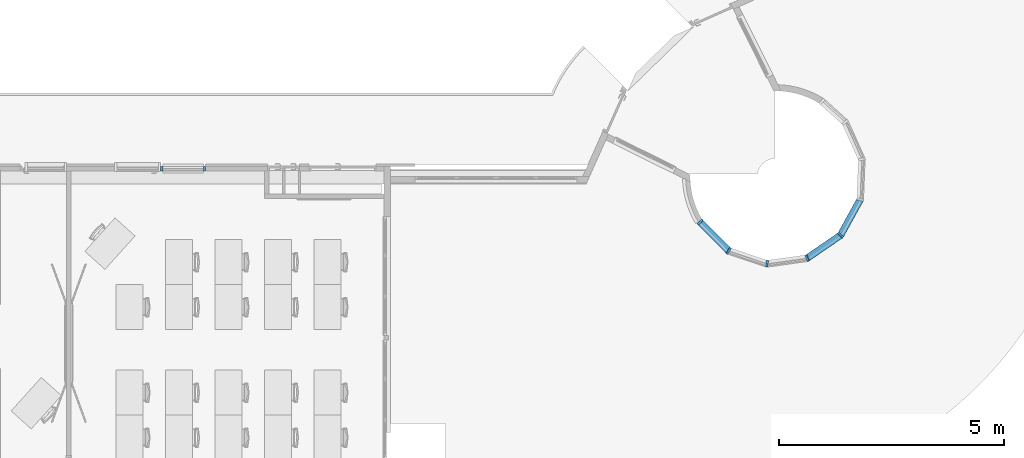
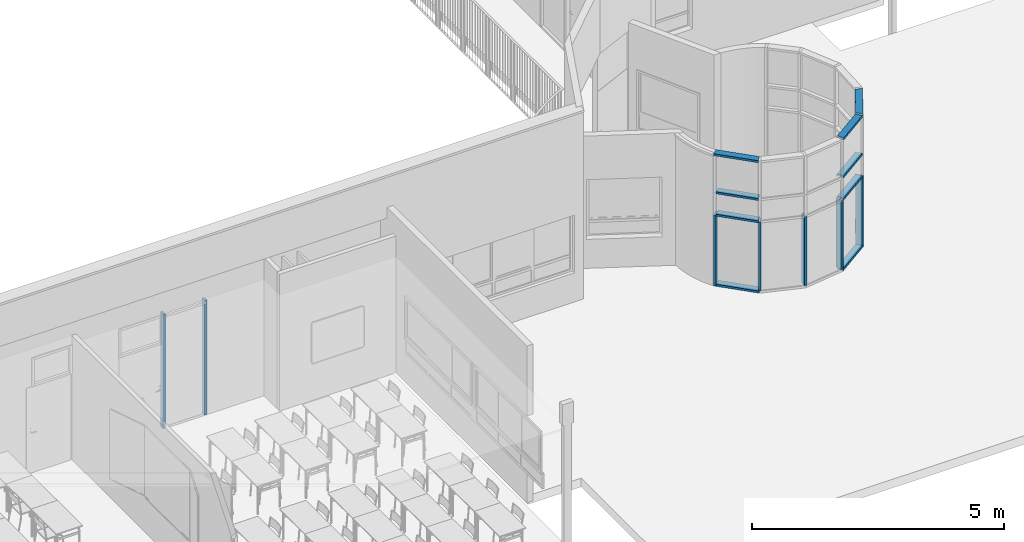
# One storey, part 4 of 44: 17 members, 2 elements without a shape of their own.
"""IFC2X3 building model written with IfcOpenShell, lengths in centimetres."""

from ifc_helpers import new_model, entity, si_unit, converted_unit, derived_unit, direction, frame, frame_2d, origin, origin_2d_with_axis, place, context, subcontext, project, spatial, polyline, rectangle, extrude, clip, halfspace, bounded_halfspace, material, type_object, element, aggregate, save


model = new_model("IFC2X3")

# Units and contexts
model_context = context("Model", 3, precision=0.001, world=origin(), true_north=direction((6.12303176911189e-17, 1.0)))
body_context = subcontext(model_context, "Body", "Model", "MODEL_VIEW")
ifc_project = project(units=[si_unit("LENGTHUNIT", "METRE", prefix="CENTI"), si_unit("AREAUNIT", "SQUARE_METRE"), si_unit("VOLUMEUNIT", "CUBIC_METRE"), converted_unit("PLANEANGLEUNIT", "DEGREE", entity("IfcRatioMeasure", 0.0174532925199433), si_unit("PLANEANGLEUNIT", "RADIAN"), dimensions=[0, 0, 0, 0, 0, 0, 0]), si_unit("MASSUNIT", "GRAM", prefix="KILO"), si_unit("TIMEUNIT", "SECOND"), si_unit("FREQUENCYUNIT", "HERTZ"), si_unit("THERMODYNAMICTEMPERATUREUNIT", "DEGREE_CELSIUS"), derived_unit("THERMALTRANSMITTANCEUNIT", [(si_unit("MASSUNIT", "GRAM", prefix="KILO"), 1), (si_unit("THERMODYNAMICTEMPERATUREUNIT", "KELVIN"), -1), (si_unit("TIMEUNIT", "SECOND"), -3)]), derived_unit("VOLUMETRICFLOWRATEUNIT", [(si_unit("LENGTHUNIT", "METRE"), 3), (si_unit("TIMEUNIT", "SECOND"), -1)]), si_unit("ELECTRICCURRENTUNIT", "AMPERE"), si_unit("ELECTRICVOLTAGEUNIT", "VOLT"), si_unit("POWERUNIT", "WATT"), si_unit("FORCEUNIT", "NEWTON", prefix="KILO"), si_unit("ILLUMINANCEUNIT", "LUX"), si_unit("LUMINOUSFLUXUNIT", "LUMEN"), si_unit("LUMINOUSINTENSITYUNIT", "CANDELA"), derived_unit("USERDEFINED", [(si_unit("MASSUNIT", "GRAM", prefix="KILO"), -1), (si_unit("LENGTHUNIT", "METRE"), -2), (si_unit("TIMEUNIT", "SECOND"), 3), (si_unit("LUMINOUSFLUXUNIT", "LUMEN"), 1)]), derived_unit("LINEARVELOCITYUNIT", [(si_unit("LENGTHUNIT", "METRE"), 1), (si_unit("TIMEUNIT", "SECOND"), -1)]), si_unit("PRESSUREUNIT", "PASCAL"), derived_unit("USERDEFINED", [(si_unit("LENGTHUNIT", "METRE"), -2), (si_unit("MASSUNIT", "GRAM", prefix="KILO"), 1), (si_unit("TIMEUNIT", "SECOND"), -2)])], contexts=[model_context])

# Site, building, storey
site_placement = place(None, frame((8.62739174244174, -249.285249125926, 0.0)))
site = spatial("IfcSite", under=ifc_project, at=site_placement, Name="Default", CompositionType="ELEMENT")
building_placement = place(site_placement, origin())
building = spatial("IfcBuilding", under=site, at=building_placement, CompositionType="ELEMENT")
storey_placement = place(building_placement, frame((0.0, 0.0, 343.0)))
storey = spatial("IfcBuildingStorey", under=building, at=storey_placement, Name="R+1", CompositionType="ELEMENT", Elevation=343.0)

# Curtain wall, members
curtain_wall_type_1 = type_object("IfcCurtainWallType", Name="Mur-rideau:1 m x 1 m - Meneaux", PredefinedType="NOTDEFINED")
curtain_wall_1_placement = place(storey_placement, frame((0.0, 0.0, -343.0)))
curtain_wall_1 = element("IfcCurtainWall", 1, at=curtain_wall_1_placement, inside=storey, type_object=curtain_wall_type_1, Name="Mur-rideau:1 m x 1 m - Meneaux", ObjectType="Mur-rideau:1 m x 1 m - Meneaux")
ifc_material = material(Name="Plastique, blanc opaque")
member_1_placement = place(curtain_wall_1_placement, frame((0.0, 0.0, 343.0)))
member_1 = element("IfcMember", 2, at=member_1_placement, material=ifc_material, Name="Mur-rideau:1 m x 1 m - Meneaux:661", ObjectType="Mur-rideau:1 m x 1 m - Meneaux:661", context=body_context, shape_type="Clipping", body=[
    clip(extrude(rectangle(XDim=5.0, YDim=15.0000000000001, at=frame_2d((-2.70894418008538e-14, -3.81916720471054e-14), x_axis=(1.0, 0.0))), frame((2879.0484470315, 649.451623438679, 2.49999999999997), z_axis=(0.701265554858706, -0.712900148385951, 0.0), x_axis=(0.0, 0.0, -1.0)), (0.0, 0.0, 1.0), 89.295179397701), halfspace(frame((2940.40918308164, 587.072860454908, -30.48), z_axis=(0.847951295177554, -0.53007414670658, 0.0), x_axis=(0.53007414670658, 0.847951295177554, 0.0)), False)),
])
member_2_placement = place(curtain_wall_1_placement, frame((0.0, 0.0, 343.0)))
member_2 = element("IfcMember", 3, at=member_2_placement, material=ifc_material, Name="Mur-rideau:1 m x 1 m - Meneaux:661", ObjectType="Mur-rideau:1 m x 1 m - Meneaux:661", context=body_context, shape_type="Clipping", body=[
    clip(clip(clip(clip(extrude(rectangle(XDim=4.99999999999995, YDim=15.0, at=frame_2d((0.0, 3.46389583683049e-13), x_axis=(1.0, 0.0))), frame((3188.33340515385, 621.540235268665, 317.5), z_axis=(-0.823704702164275, -0.567019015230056, 0.0), x_axis=(0.0, 0.0, -1.0)), (0.0, 0.0, 1.0), 88.4011679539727), bounded_halfspace(frame((3192.87050338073, 615.104662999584, 226.0), z_axis=(0.671518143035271, 0.740988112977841, 0.0), x_axis=(0.740988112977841, -0.671518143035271, 0.0)), False, frame((3188.33340515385, 621.540235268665, 317.5), z_axis=(-0.823704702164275, -0.567019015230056, 0.0), x_axis=(0.0, 0.0, -1.0)), polyline([(-2.49999999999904, 7.50000000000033), (2.5000000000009, 7.49999999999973), (2.49999999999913, -6.72567292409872), (-2.50000000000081, -6.72567292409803), (-2.49999999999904, 7.50000000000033)]))), bounded_halfspace(frame((3181.75568168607, 625.177435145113, 226.0), z_axis=(0.740988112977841, -0.671518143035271, 0.0), x_axis=(0.671518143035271, 0.740988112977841, 0.0)), False, frame((3188.33340515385, 621.540235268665, 317.5), z_axis=(-0.823704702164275, -0.567019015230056, 0.0), x_axis=(0.0, 0.0, -1.0)), polyline([(2.49999999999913, -6.72567292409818), (2.4999999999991, -7.50000000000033), (-2.50000000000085, -7.49999999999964), (-2.50000000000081, -6.72567292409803), (2.49999999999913, -6.72567292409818)]))), bounded_halfspace(frame((3114.46750202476, 578.857829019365, 226.0), z_axis=(-0.931884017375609, -0.362756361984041, 0.0), x_axis=(0.362756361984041, -0.931884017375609, 0.0)), False, frame((3188.33340515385, 621.540235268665, 317.5), z_axis=(-0.823704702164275, -0.567019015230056, 0.0), x_axis=(0.0, 0.0, -1.0)), polyline([(-2.50000000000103, 7.50000000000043), (-2.50000000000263, -6.72567292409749), (2.49999999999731, -6.72567292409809), (2.49999999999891, 7.50000000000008), (-2.50000000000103, 7.50000000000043)]))), bounded_halfspace(frame((3109.80808193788, 577.044047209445, 226.0), z_axis=(0.362756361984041, -0.931884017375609, 0.0), x_axis=(0.931884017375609, 0.362756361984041, 0.0)), False, frame((3188.33340515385, 621.540235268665, 317.5), z_axis=(-0.823704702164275, -0.567019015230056, 0.0), x_axis=(0.0, 0.0, -1.0)), polyline([(-2.50000000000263, -6.72567292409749), (-2.50000000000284, -7.49999999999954), (2.49999999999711, -7.49999999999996), (2.49999999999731, -6.72567292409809), (-2.50000000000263, -6.72567292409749)]))),
])
member_3_placement = place(curtain_wall_1_placement, frame((0.0, 0.0, 343.0)))
member_3 = element("IfcMember", 4, at=member_3_placement, material=ifc_material, Name="Mur-rideau:1 m x 1 m - Meneaux:661", ObjectType="Mur-rideau:1 m x 1 m - Meneaux:661", context=body_context, shape_type="Clipping", body=[
    clip(clip(clip(clip(extrude(rectangle(XDim=4.99999999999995, YDim=14.9999999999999, at=frame_2d((0.0, -2.62012633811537e-14), x_axis=(1.0, 0.0))), frame((3232.11636143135, 700.076961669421, 317.5), z_axis=(-0.483455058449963, -0.875369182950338, 0.0), x_axis=(0.0, 0.0, -1.0)), (0.0, 0.0, 1.0), 88.4011679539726), bounded_halfspace(frame((3239.05130675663, 696.347567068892, 226.0), z_axis=(0.269562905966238, 0.962982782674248, 0.0), x_axis=(0.962982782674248, -0.269562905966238, 0.0)), False, frame((3232.11636143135, 700.076961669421, 317.5), z_axis=(-0.483455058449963, -0.875369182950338, 0.0), x_axis=(0.0, 0.0, -1.0)), polyline([(-2.49999999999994, 7.49999999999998), (2.5, 7.49999999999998), (2.5, -6.72567292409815), (-2.49999999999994, -6.72567292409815), (-2.49999999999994, 7.49999999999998)]))), bounded_halfspace(frame((3224.60656501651, 700.391010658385, 226.0), z_axis=(0.962982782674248, -0.269562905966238, 0.0), x_axis=(0.269562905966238, 0.962982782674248, 0.0)), False, frame((3232.11636143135, 700.076961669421, 317.5), z_axis=(-0.483455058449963, -0.875369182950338, 0.0), x_axis=(0.0, 0.0, -1.0)), polyline([(2.5, -6.72567292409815), (2.5, -7.49999999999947), (-2.49999999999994, -7.49999999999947), (-2.49999999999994, -6.72567292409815), (2.5, -6.72567292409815)]))), bounded_halfspace(frame((3185.11327240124, 628.882375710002, 226.0), z_axis=(-0.671518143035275, -0.740988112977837, 0.0), x_axis=(0.740988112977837, -0.671518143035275, 0.0)), False, frame((3232.11636143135, 700.076961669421, 317.5), z_axis=(-0.483455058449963, -0.875369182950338, 0.0), x_axis=(0.0, 0.0, -1.0)), polyline([(-2.49999999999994, 7.50000000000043), (-2.49999999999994, -6.72567292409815), (2.5, -6.72567292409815), (2.5, 7.50000000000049), (-2.49999999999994, 7.50000000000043)]))), bounded_halfspace(frame((3181.75568168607, 625.177435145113, 226.0), z_axis=(0.740988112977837, -0.671518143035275, 0.0), x_axis=(0.671518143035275, 0.740988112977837, 0.0)), False, frame((3232.11636143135, 700.076961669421, 317.5), z_axis=(-0.483455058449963, -0.875369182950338, 0.0), x_axis=(0.0, 0.0, -1.0)), polyline([(-2.49999999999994, -6.72567292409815), (-2.49999999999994, -7.49999999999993), (2.5, -7.49999999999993), (2.5, -6.72567292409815), (-2.49999999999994, -6.72567292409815)]))),
])
member_4_placement = place(curtain_wall_1_placement, frame((0.0, 0.0, 343.0)))
member_4 = element("IfcMember", 5, at=member_4_placement, material=ifc_material, Name="Mur-rideau:1 m x 1 m - Meneaux:661", ObjectType="Mur-rideau:1 m x 1 m - Meneaux:661", context=body_context, shape_type="Clipping", body=[
    clip(clip(extrude(rectangle(XDim=5.0, YDim=15.0000000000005, at=frame_2d((-2.70894418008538e-14, 1.33670852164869e-13), x_axis=(1.0, 0.0))), frame((3113.40116683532, 569.958638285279, 2.49999999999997), z_axis=(0.823704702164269, 0.567019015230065, 0.0), x_axis=(0.0, 0.0, -1.0)), (0.0, 0.0, 1.0), 93.5383987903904), halfspace(frame((3114.8584646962, 570.961807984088, -30.48), z_axis=(-0.93188401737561, -0.362756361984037, 0.0), x_axis=(0.362756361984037, -0.93188401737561, 0.0)), False)), halfspace(frame((3188.99188789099, 621.993519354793, -30.48), z_axis=(0.671518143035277, 0.740988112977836, 0.0), x_axis=(0.740988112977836, -0.671518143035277, 0.0)), False)),
])
member_5_placement = place(curtain_wall_1_placement, frame((0.0, 0.0, 343.0)))
member_5 = element("IfcMember", 6, at=member_5_placement, material=ifc_material, Name="Mur-rideau:1 m x 1 m - Meneaux:661", ObjectType="Mur-rideau:1 m x 1 m - Meneaux:661", context=body_context, shape_type="Clipping", body=[
    clip(clip(extrude(rectangle(XDim=5.0, YDim=14.9999999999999, at=frame_2d((-2.70894418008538e-14, 0.0), x_axis=(1.0, 0.0))), frame((3188.13655949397, 620.444816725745, 2.49999999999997), z_axis=(0.483455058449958, 0.875369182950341, 0.0), x_axis=(0.0, 0.0, -1.0)), (0.0, 0.0, 1.0), 93.5383987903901), halfspace(frame((3188.99188789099, 621.993519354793, -30.48), z_axis=(-0.671518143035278, -0.740988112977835, 0.0), x_axis=(0.740988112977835, -0.671518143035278, 0.0)), False)), halfspace(frame((3232.50284315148, 700.776745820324, -30.48), z_axis=(0.269562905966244, 0.962982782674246, 0.0), x_axis=(0.962982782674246, -0.269562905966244, 0.0)), False)),
])
member_6_placement = place(curtain_wall_1_placement, frame((0.0, 0.0, 343.0)))
member_6 = element("IfcMember", 7, at=member_6_placement, material=ifc_material, Name="Mur-rideau:1 m x 1 m - Meneaux:661", ObjectType="Mur-rideau:1 m x 1 m - Meneaux:661", context=body_context, shape_type="SweptSolid", body=[
    extrude(rectangle(XDim=4.99999999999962, YDim=15.0, at=origin_2d_with_axis()), frame((3025.7335796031, 558.441629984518, 5.0), z_axis=(0.0, 0.0, 1.0), x_axis=(0.995762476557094, -0.0919624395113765, 0.0)), (0.0, 0.0, 1.0), 167.0),
])
member_7_placement = place(curtain_wall_1_placement, frame((0.0, 0.0, 343.0)))
member_7 = element("IfcMember", 8, at=member_7_placement, material=ifc_material, Name="Mur-rideau:1 m x 1 m - Meneaux:661", ObjectType="Mur-rideau:1 m x 1 m - Meneaux:661", context=body_context, shape_type="SweptSolid", body=[
    extrude(rectangle(XDim=5.00000000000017, YDim=15.0, at=origin_2d_with_axis()), frame((3114.8584646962, 570.961807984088, 5.0), z_axis=(0.0, 0.0, 1.0), x_axis=(0.931884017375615, 0.362756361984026, 0.0)), (0.0, 0.0, 1.0), 167.0),
])
member_8_placement = place(curtain_wall_1_placement, frame((0.0, 0.0, 343.0)))
member_8 = element("IfcMember", 9, at=member_8_placement, material=ifc_material, Name="Mur-rideau:1 m x 1 m - Meneaux:661", ObjectType="Mur-rideau:1 m x 1 m - Meneaux:661", context=body_context, shape_type="SweptSolid", body=[
    extrude(rectangle(XDim=4.99999999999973, YDim=14.9999999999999, at=origin_2d_with_axis()), frame((3188.99188789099, 621.993519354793, 5.0), z_axis=(0.0, 0.0, 1.0), x_axis=(0.671518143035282, 0.740988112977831, 0.0)), (0.0, 0.0, 1.0), 167.0),
])
member_9_placement = place(curtain_wall_1_placement, frame((0.0, 0.0, 343.0)))
member_9 = element("IfcMember", 10, at=member_9_placement, material=ifc_material, Name="Mur-rideau:1 m x 1 m - Meneaux:661", ObjectType="Mur-rideau:1 m x 1 m - Meneaux:661", context=body_context, shape_type="Clipping", body=[
    clip(clip(extrude(rectangle(XDim=4.99999999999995, YDim=15.0000000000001, at=frame_2d((0.0, 3.81916720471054e-14), x_axis=(1.0, 0.0))), frame((2939.88221695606, 587.608569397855, 317.5), z_axis=(-0.701265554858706, 0.712900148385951, 0.0), x_axis=(0.0, 0.0, -1.0)), (0.0, 0.0, 1.0), 91.748549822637), bounded_halfspace(frame((2934.33028870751, 582.018452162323, 226.0), z_axis=(0.849684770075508, -0.527290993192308, 0.0), x_axis=(0.527290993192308, 0.849684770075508, 0.0)), False, frame((2939.88221695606, 587.608569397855, 317.5), z_axis=(-0.701265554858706, 0.712900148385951, 0.0), x_axis=(0.0, 0.0, -1.0)), polyline([(-2.49999999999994, 7.50000000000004), (2.5, 7.50000000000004), (2.5, -6.69828019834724), (-2.49999999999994, -6.6982801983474), (-2.49999999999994, 7.50000000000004)]))), bounded_halfspace(frame((2942.23965360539, 594.763723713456, 226.0), z_axis=(-0.527290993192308, -0.849684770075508, 0.0), x_axis=(0.849684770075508, -0.527290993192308, 0.0)), False, frame((2939.88221695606, 587.608569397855, 317.5), z_axis=(-0.701265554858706, 0.712900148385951, 0.0), x_axis=(0.0, 0.0, -1.0)), polyline([(2.5, -6.6982801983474), (2.5, -7.50000000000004), (-2.49999999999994, -7.50000000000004), (-2.49999999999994, -6.69828019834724), (2.5, -6.6982801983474)]))),
])
member_10_placement = place(curtain_wall_1_placement, frame((0.0, 0.0, 343.0)))
member_10 = element("IfcMember", 11, at=member_10_placement, material=ifc_material, Name="Mur-rideau:1 m x 1 m - Meneaux:661", ObjectType="Mur-rideau:1 m x 1 m - Meneaux:661", context=body_context, shape_type="SweptSolid", body=[
    extrude(rectangle(XDim=4.99999999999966, YDim=15.0, at=frame_2d((-3.67927910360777e-13, -2.28261853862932e-13), x_axis=(1.0, 0.0))), frame((2940.40918308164, 587.072860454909, 5.0), z_axis=(0.0, 0.0, 1.0), x_axis=(0.849684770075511, -0.527290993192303, 0.0)), (0.0, 0.0, 1.0), 167.0),
])
member_11_placement = place(curtain_wall_1_placement, frame((0.0, 0.0, 343.0)))
member_11 = element("IfcMember", 12, at=member_11_placement, material=ifc_material, Name="Mur-rideau:1 m x 1 m - Meneaux:661", ObjectType="Mur-rideau:1 m x 1 m - Meneaux:661", context=body_context, shape_type="Clipping", body=[
    clip(clip(clip(clip(extrude(rectangle(XDim=4.99999999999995, YDim=15.0000000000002, at=origin_2d_with_axis()), frame((2939.88221695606, 587.608569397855, 226.0), z_axis=(-0.70126555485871, 0.712900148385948, 0.0), x_axis=(0.0, 0.0, -1.0)), (0.0, 0.0, 1.0), 86.748549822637), bounded_halfspace(frame((2934.33028870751, 582.018452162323, 226.0), z_axis=(0.849684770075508, -0.527290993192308, 0.0), x_axis=(0.527290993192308, 0.849684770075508, 0.0)), False, frame((2939.88221695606, 587.608569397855, 226.0), z_axis=(-0.70126555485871, 0.712900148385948, 0.0), x_axis=(0.0, 0.0, -1.0)), polyline([(-2.49999999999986, 7.50000000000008), (0.0, 7.50000000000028), (0.0, -6.69828019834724), (-2.50000000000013, -6.69828019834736), (-2.49999999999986, 7.50000000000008)]))), bounded_halfspace(frame((2934.33028870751, 582.018452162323, 172.0), z_axis=(0.849684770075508, -0.527290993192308, 0.0), x_axis=(0.527290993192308, 0.849684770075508, 0.0)), False, frame((2939.88221695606, 587.608569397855, 226.0), z_axis=(-0.70126555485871, 0.712900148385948, 0.0), x_axis=(0.0, 0.0, -1.0)), polyline([(0.0, 7.50000000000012), (2.50000000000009, 7.50000000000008), (2.49999999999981, -6.69828019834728), (0.0, -6.69828019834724), (0.0, 7.50000000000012)]))), bounded_halfspace(frame((2942.23965360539, 594.763723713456, 226.0), z_axis=(-0.527290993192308, -0.849684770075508, 0.0), x_axis=(0.849684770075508, -0.527290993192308, 0.0)), False, frame((2939.88221695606, 587.608569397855, 226.0), z_axis=(-0.70126555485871, 0.712900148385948, 0.0), x_axis=(0.0, 0.0, -1.0)), polyline([(0.0, -7.50000000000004), (-2.50000000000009, -7.5), (-2.50000000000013, -6.69828019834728), (0.0, -6.69828019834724), (0.0, -7.50000000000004)]))), bounded_halfspace(frame((2942.23965360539, 594.763723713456, 172.0), z_axis=(-0.527290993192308, -0.849684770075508, 0.0), x_axis=(0.849684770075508, -0.527290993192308, 0.0)), False, frame((2939.88221695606, 587.608569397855, 226.0), z_axis=(-0.70126555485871, 0.712900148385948, 0.0), x_axis=(0.0, 0.0, -1.0)), polyline([(2.49999999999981, -6.69828019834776), (2.49999999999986, -7.50000000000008), (0.0, -7.49999999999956), (0.0, -6.69828019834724), (2.49999999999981, -6.69828019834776)]))),
])
member_12_placement = place(curtain_wall_1_placement, frame((0.0, 0.0, 343.0)))
member_12 = element("IfcMember", 13, at=member_12_placement, material=ifc_material, Name="Mur-rideau:1 m x 1 m - Meneaux:661", ObjectType="Mur-rideau:1 m x 1 m - Meneaux:661", context=body_context, shape_type="Clipping", body=[
    clip(clip(clip(clip(clip(clip(clip(clip(extrude(rectangle(XDim=4.99999999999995, YDim=15.0, at=frame_2d((0.0, -4.48530101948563e-14), x_axis=(1.0, 0.0))), frame((3188.33340515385, 621.540235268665, 226.0), z_axis=(-0.823704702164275, -0.567019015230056, 0.0), x_axis=(0.0, 0.0, -1.0)), (0.0, 0.0, 1.0), 88.4011679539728), bounded_halfspace(frame((3192.87050338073, 615.104662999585, 226.0), z_axis=(0.671518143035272, 0.74098811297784, 0.0), x_axis=(0.74098811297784, -0.671518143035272, 0.0)), False, frame((3188.33340515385, 621.540235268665, 226.0), z_axis=(-0.823704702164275, -0.567019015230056, 0.0), x_axis=(0.0, 0.0, -1.0)), polyline([(-2.4999999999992, 7.50000000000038), (0.0, 7.49999999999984), (0.0, -6.72567292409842), (-2.50000000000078, -6.72567292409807), (-2.4999999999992, 7.50000000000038)]))), bounded_halfspace(frame((3192.87050338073, 615.104662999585, 172.0), z_axis=(0.671518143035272, 0.74098811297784, 0.0), x_axis=(0.74098811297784, -0.671518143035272, 0.0)), False, frame((3188.33340515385, 621.540235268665, 226.0), z_axis=(-0.823704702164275, -0.567019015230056, 0.0), x_axis=(0.0, 0.0, -1.0)), polyline([(0.0, 7.50000000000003), (2.50000000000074, 7.49999999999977), (2.49999999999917, -6.72567292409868), (0.0, -6.72567292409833), (0.0, 7.50000000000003)]))), bounded_halfspace(frame((3181.75568168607, 625.177435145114, 226.0), z_axis=(0.74098811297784, -0.671518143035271, 0.0), x_axis=(0.671518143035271, 0.74098811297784, 0.0)), False, frame((3188.33340515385, 621.540235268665, 226.0), z_axis=(-0.823704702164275, -0.567019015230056, 0.0), x_axis=(0.0, 0.0, -1.0)), polyline([(0.0, -7.50000000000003), (-2.50000000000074, -7.50000000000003), (-2.50000000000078, -6.72567292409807), (0.0, -6.72567292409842), (0.0, -7.50000000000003)]))), bounded_halfspace(frame((3181.75568168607, 625.177435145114, 172.0), z_axis=(0.74098811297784, -0.671518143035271, 0.0), x_axis=(0.671518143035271, 0.74098811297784, 0.0)), False, frame((3188.33340515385, 621.540235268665, 226.0), z_axis=(-0.823704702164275, -0.567019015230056, 0.0), x_axis=(0.0, 0.0, -1.0)), polyline([(2.49999999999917, -6.72567292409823), (2.4999999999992, -7.50000000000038), (0.0, -7.50000000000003), (0.0, -6.72567292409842), (2.49999999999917, -6.72567292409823)]))), bounded_halfspace(frame((3114.46750202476, 578.857829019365, 226.0), z_axis=(-0.931884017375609, -0.36275636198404, 0.0), x_axis=(0.36275636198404, -0.931884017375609, 0.0)), False, frame((3188.33340515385, 621.540235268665, 226.0), z_axis=(-0.823704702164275, -0.567019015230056, 0.0), x_axis=(0.0, 0.0, -1.0)), polyline([(-2.50000000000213, 7.50000000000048), (-2.50000000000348, -6.72567292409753), (0.0, -6.72567292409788), (0.0, 7.50000000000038), (-2.50000000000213, 7.50000000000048)]))), bounded_halfspace(frame((3109.80808193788, 577.044047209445, 226.0), z_axis=(0.36275636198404, -0.931884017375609, 0.0), x_axis=(0.931884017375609, 0.36275636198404, 0.0)), False, frame((3188.33340515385, 621.540235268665, 226.0), z_axis=(-0.823704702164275, -0.567019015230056, 0.0), x_axis=(0.0, 0.0, -1.0)), polyline([(-2.50000000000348, -6.72567292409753), (-2.50000000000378, -7.49999999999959), (0.0, -7.49999999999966), (0.0, -6.72567292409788), (-2.50000000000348, -6.72567292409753)]))), bounded_halfspace(frame((3114.46750202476, 578.857829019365, 172.0), z_axis=(-0.931884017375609, -0.36275636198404, 0.0), x_axis=(0.36275636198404, -0.931884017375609, 0.0)), False, frame((3188.33340515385, 621.540235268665, 226.0), z_axis=(-0.823704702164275, -0.567019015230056, 0.0), x_axis=(0.0, 0.0, -1.0)), polyline([(2.49999999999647, -6.72567292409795), (2.49999999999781, 7.50000000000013), (0.0, 7.50000000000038), (0.0, -6.72567292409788), (2.49999999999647, -6.72567292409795)]))), bounded_halfspace(frame((3109.80808193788, 577.044047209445, 172.0), z_axis=(0.36275636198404, -0.931884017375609, 0.0), x_axis=(0.931884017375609, 0.36275636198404, 0.0)), False, frame((3188.33340515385, 621.540235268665, 226.0), z_axis=(-0.823704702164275, -0.567019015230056, 0.0), x_axis=(0.0, 0.0, -1.0)), polyline([(0.0, -7.49999999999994), (2.49999999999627, -7.49999999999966), (2.49999999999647, -6.72567292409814), (0.0, -6.7256729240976), (0.0, -7.49999999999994)]))),
])
member_13_placement = place(curtain_wall_1_placement, frame((0.0, 0.0, 343.0)))
member_13 = element("IfcMember", 14, at=member_13_placement, material=ifc_material, Name="Mur-rideau:1 m x 1 m - Meneaux:661", ObjectType="Mur-rideau:1 m x 1 m - Meneaux:661", context=body_context, shape_type="SweptSolid", body=[
    extrude(rectangle(XDim=15.0, YDim=4.99999999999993, at=frame_2d((-1.92290627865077e-13, -1.13020703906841e-13), x_axis=(1.0, 0.0))), frame((2877.29528314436, 651.233873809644, 172.0), z_axis=(0.0, 0.0, -1.0), x_axis=(0.712900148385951, 0.701265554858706, 0.0)), (0.0, 0.0, 1.0), 172.0),
])
member_14_placement = place(curtain_wall_1_placement, frame((0.0, 0.0, 343.0)))
member_14 = element("IfcMember", 15, at=member_14_placement, material=ifc_material, Name="Mur-rideau:1 m x 1 m - Meneaux:661", ObjectType="Mur-rideau:1 m x 1 m - Meneaux:661", context=body_context, shape_type="Clipping", body=[
    clip(clip(clip(clip(extrude(rectangle(XDim=4.99999999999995, YDim=15.0000000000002, at=origin_2d_with_axis()), frame((2939.88221695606, 587.608569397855, 172.0), z_axis=(-0.70126555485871, 0.712900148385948, 0.0), x_axis=(0.0, 0.0, -1.0)), (0.0, 0.0, 1.0), 86.748549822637), bounded_halfspace(frame((2934.33028870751, 582.018452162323, 172.0), z_axis=(0.849684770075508, -0.527290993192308, 0.0), x_axis=(0.527290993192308, 0.849684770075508, 0.0)), False, frame((2939.88221695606, 587.608569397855, 172.0), z_axis=(-0.70126555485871, 0.712900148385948, 0.0), x_axis=(0.0, 0.0, -1.0)), polyline([(-2.49999999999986, 7.50000000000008), (0.0, 7.50000000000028), (0.0, -6.69828019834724), (-2.50000000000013, -6.69828019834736), (-2.49999999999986, 7.50000000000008)]))), bounded_halfspace(frame((2934.33028870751, 582.018452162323, 5.0), z_axis=(0.849684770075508, -0.527290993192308, 0.0), x_axis=(0.527290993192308, 0.849684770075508, 0.0)), False, frame((2939.88221695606, 587.608569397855, 172.0), z_axis=(-0.70126555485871, 0.712900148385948, 0.0), x_axis=(0.0, 0.0, -1.0)), polyline([(0.0, 7.50000000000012), (2.50000000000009, 7.50000000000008), (2.49999999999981, -6.69828019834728), (0.0, -6.69828019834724), (0.0, 7.50000000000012)]))), bounded_halfspace(frame((2942.23965360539, 594.763723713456, 172.0), z_axis=(-0.527290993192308, -0.849684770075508, 0.0), x_axis=(0.849684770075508, -0.527290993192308, 0.0)), False, frame((2939.88221695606, 587.608569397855, 172.0), z_axis=(-0.70126555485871, 0.712900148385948, 0.0), x_axis=(0.0, 0.0, -1.0)), polyline([(0.0, -7.50000000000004), (-2.50000000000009, -7.5), (-2.50000000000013, -6.69828019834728), (0.0, -6.69828019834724), (0.0, -7.50000000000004)]))), bounded_halfspace(frame((2942.23965360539, 594.763723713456, 5.0), z_axis=(-0.527290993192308, -0.849684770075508, 0.0), x_axis=(0.849684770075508, -0.527290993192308, 0.0)), False, frame((2939.88221695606, 587.608569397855, 172.0), z_axis=(-0.70126555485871, 0.712900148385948, 0.0), x_axis=(0.0, 0.0, -1.0)), polyline([(2.49999999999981, -6.69828019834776), (2.49999999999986, -7.50000000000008), (0.0, -7.49999999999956), (0.0, -6.69828019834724), (2.49999999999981, -6.69828019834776)]))),
])
member_15_placement = place(curtain_wall_1_placement, frame((0.0, 0.0, 343.0)))
member_15 = element("IfcMember", 16, at=member_15_placement, material=ifc_material, Name="Mur-rideau:1 m x 1 m - Meneaux:661", ObjectType="Mur-rideau:1 m x 1 m - Meneaux:661", context=body_context, shape_type="Clipping", body=[
    clip(clip(clip(clip(clip(clip(clip(clip(extrude(rectangle(XDim=4.99999999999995, YDim=15.0, at=frame_2d((0.0, 4.48530101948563e-14), x_axis=(1.0, 0.0))), frame((3188.33340515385, 621.540235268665, 172.0), z_axis=(-0.823704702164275, -0.567019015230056, 0.0), x_axis=(0.0, 0.0, -1.0)), (0.0, 0.0, 1.0), 88.4011679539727), bounded_halfspace(frame((3192.87050338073, 615.104662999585, 172.0), z_axis=(0.671518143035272, 0.74098811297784, 0.0), x_axis=(0.74098811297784, -0.671518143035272, 0.0)), False, frame((3188.33340515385, 621.540235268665, 172.0), z_axis=(-0.823704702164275, -0.567019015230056, 0.0), x_axis=(0.0, 0.0, -1.0)), polyline([(-2.49999999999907, 7.50000000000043), (0.0, 7.49999999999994), (0.0, -6.72567292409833), (-2.50000000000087, -6.72567292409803), (-2.49999999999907, 7.50000000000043)]))), bounded_halfspace(frame((3192.87050338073, 615.104662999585, 5.0), z_axis=(0.671518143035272, 0.74098811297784, 0.0), x_axis=(0.74098811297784, -0.671518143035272, 0.0)), False, frame((3188.33340515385, 621.540235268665, 172.0), z_axis=(-0.823704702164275, -0.567019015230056, 0.0), x_axis=(0.0, 0.0, -1.0)), polyline([(0.0, 7.50000000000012), (2.50000000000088, 7.50000000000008), (2.49999999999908, -6.72567292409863), (0.0, -6.72567292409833), (0.0, 7.50000000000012)]))), bounded_halfspace(frame((3181.75568168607, 625.177435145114, 172.0), z_axis=(0.74098811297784, -0.671518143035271, 0.0), x_axis=(0.671518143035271, 0.74098811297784, 0.0)), False, frame((3188.33340515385, 621.540235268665, 172.0), z_axis=(-0.823704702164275, -0.567019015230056, 0.0), x_axis=(0.0, 0.0, -1.0)), polyline([(0.0, -7.50000000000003), (-2.50000000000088, -7.49999999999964), (-2.50000000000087, -6.72567292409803), (0.0, -6.72567292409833), (0.0, -7.50000000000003)]))), bounded_halfspace(frame((3181.75568168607, 625.177435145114, 5.0), z_axis=(0.74098811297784, -0.671518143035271, 0.0), x_axis=(0.671518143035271, 0.74098811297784, 0.0)), False, frame((3188.33340515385, 621.540235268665, 172.0), z_axis=(-0.823704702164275, -0.567019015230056, 0.0), x_axis=(0.0, 0.0, -1.0)), polyline([(2.49999999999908, -6.72567292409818), (2.49999999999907, -7.50000000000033), (0.0, -7.50000000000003), (0.0, -6.72567292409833), (2.49999999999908, -6.72567292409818)]))), bounded_halfspace(frame((3114.46750202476, 578.857829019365, 172.0), z_axis=(-0.931884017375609, -0.36275636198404, 0.0), x_axis=(0.36275636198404, -0.931884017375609, 0.0)), False, frame((3188.33340515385, 621.540235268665, 172.0), z_axis=(-0.823704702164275, -0.567019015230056, 0.0), x_axis=(0.0, 0.0, -1.0)), polyline([(-2.50000000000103, 7.50000000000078), (-2.50000000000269, -6.72567292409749), (0.0, -6.72567292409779), (0.0, 7.50000000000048), (-2.50000000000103, 7.50000000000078)]))), bounded_halfspace(frame((3109.80808193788, 577.044047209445, 172.0), z_axis=(0.36275636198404, -0.931884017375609, 0.0), x_axis=(0.931884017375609, 0.36275636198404, 0.0)), False, frame((3188.33340515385, 621.540235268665, 172.0), z_axis=(-0.823704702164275, -0.567019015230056, 0.0), x_axis=(0.0, 0.0, -1.0)), polyline([(-2.50000000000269, -6.72567292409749), (-2.50000000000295, -7.49999999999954), (0.0, -7.49999999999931), (0.0, -6.72567292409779), (-2.50000000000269, -6.72567292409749)]))), bounded_halfspace(frame((3114.46750202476, 578.857829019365, 5.0), z_axis=(-0.931884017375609, -0.36275636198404, 0.0), x_axis=(0.36275636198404, -0.931884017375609, 0.0)), False, frame((3188.33340515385, 621.540235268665, 172.0), z_axis=(-0.823704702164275, -0.567019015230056, 0.0), x_axis=(0.0, 0.0, -1.0)), polyline([(2.49999999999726, -6.7256729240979), (2.49999999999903, 7.50000000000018), (0.0, 7.50000000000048), (0.0, -6.72567292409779), (2.49999999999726, -6.7256729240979)]))), bounded_halfspace(frame((3109.80808193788, 577.044047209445, 5.0), z_axis=(0.36275636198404, -0.931884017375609, 0.0), x_axis=(0.931884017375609, 0.36275636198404, 0.0)), False, frame((3188.33340515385, 621.540235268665, 172.0), z_axis=(-0.823704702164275, -0.567019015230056, 0.0), x_axis=(0.0, 0.0, -1.0)), polyline([(0.0, -7.49999999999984), (2.49999999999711, -7.4999999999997), (2.49999999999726, -6.72567292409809), (0.0, -6.7256729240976), (0.0, -7.49999999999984)]))),
])
aggregate(curtain_wall_1, [member_1, member_2, member_3, member_4, member_5, member_6, member_7, member_8, member_9, member_10, member_11, member_12, member_13, member_14, member_15])

curtain_wall_type_2 = type_object("IfcCurtainWallType", Name="Mur-rideau:Simple panneau", PredefinedType="NOTDEFINED")
curtain_wall_2_placement = place(storey_placement, frame((0.0, 0.0, -343.0)))
curtain_wall_2 = element("IfcCurtainWall", 17, at=curtain_wall_2_placement, inside=storey, type_object=curtain_wall_type_2, Name="Mur-rideau:Simple panneau", ObjectType="Mur-rideau:Simple panneau")
member_16_placement = place(curtain_wall_2_placement, frame((0.0, 0.0, 343.0)))
member_16 = element("IfcMember", 18, at=member_16_placement, material=ifc_material, Name="Mur-rideau:Simple panneau", ObjectType="Mur-rideau:Simple panneau", context=body_context, shape_type="SweptSolid", body=[
    extrude(rectangle(XDim=4.99999999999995, YDim=10.0, at=frame_2d((-1.08357767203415e-13, -5.41788836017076e-14), x_axis=(1.0, 0.0))), frame((1775.40482780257, 770.0, 278.0), z_axis=(0.0, 0.0, -1.0), x_axis=(-1.0, 0.0, 0.0)), (0.0, 0.0, 1.0), 277.999999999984),
])
member_17_placement = place(curtain_wall_2_placement, frame((0.0, 0.0, 343.0)))
member_17 = element("IfcMember", 19, at=member_17_placement, material=ifc_material, Name="Mur-rideau:Simple panneau", ObjectType="Mur-rideau:Simple panneau", context=body_context, shape_type="SweptSolid", body=[
    extrude(rectangle(XDim=4.99999999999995, YDim=9.99999999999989, at=frame_2d((1.08357767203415e-13, 1.08357767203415e-13), x_axis=(1.0, 0.0))), frame((1680.40482780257, 770.0, 0.0), z_axis=(0.0, 0.0, 1.0), x_axis=(-1.0, 0.0, 0.0)), (0.0, 0.0, 1.0), 277.999999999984),
])
aggregate(curtain_wall_2, [member_16, member_17])

save(model, "model.ifc")
